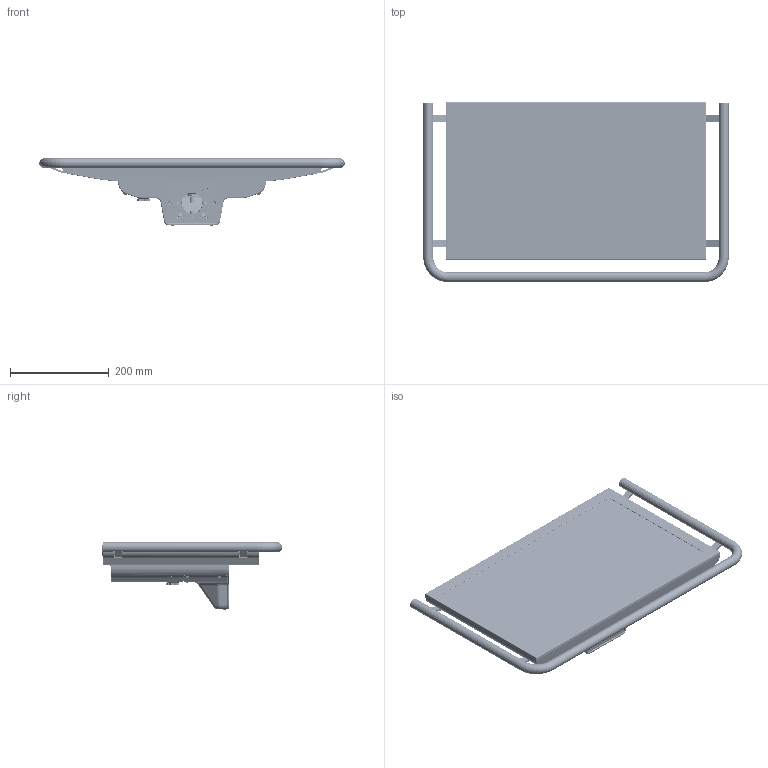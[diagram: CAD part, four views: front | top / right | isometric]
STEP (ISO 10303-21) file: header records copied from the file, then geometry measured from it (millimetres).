
FILE_DESCRIPTION (( 'STEP AP214' ), '1' );
FILE_NAME ('DIMA VK3500_MK200 BOTTOM ARM 215 RESISTIVO CON MANIGLIONE.STEP', '2022-06-22T11:53:24', ( '' ), ( '' ), 'SwSTEP 2.0', 'SolidWorks 2021', '' );
FILE_SCHEMA (( 'AUTOMOTIVE_DESIGN' ));
Length unit declared in the file: millimetre
Products named in the file (33): 66011054; 51736038; 58755015; 58755017; 48000059; 58336032; 58536019; 55455148; 14300048; 00_d18201905; 58536015; 69111021; 58700003; 58736012; 57836056_Default<A macchina>; 58755016; 60290016; 50342040; 65720029; 66811015; 50342037; 51736037; 65720000; 56202009; 56600739; 56102023; 69111030; 56236060; 58536020; 57903130_Default<A macchina>; DIMA VK3500_MK200 BOTTOM ARM 215 RESISTIVO CON MANIGLIONE; 56636991_Default<A macchina>; 65720013
Assembly tree (61 placements, depth 5):
  DIMA VK3500_MK200 BOTTOM ARM 215 RESISTIVO CON MANIGLIONE
    56600739
      56636991_Default<A macchina>
      50342037
    48000059
    14300048
    57836056_Default<A macchina>
    56236060
    56202009  x4
    66811015  x8
    69111021  x4
    00_d18201905
      58536020
        58536019
          58536015
      55455148
      57903130_Default<A macchina>
      51736038
        51736037
      65720029  x2
      66011054  x3
      69111030  x7
      58755015
      58755016  x4
      58755017  x5
      58700003
        58336032
        50342040
        58736012
        60290016
        56102023
        65720000
      65720013
Bounding box: 619.5 x 365.58 x 136.82 mm (x, y, z)
Volume: 2346278.8 mm3; surface area: 1147470.5 mm2
Topology: 68 solids, 82 shells, 5039 faces, 12430 edges, 7636 vertices
Faces by surface type: cylinder 1636, plane 1489, bspline 841, cone 772, torus 220, sphere 81
Entity records: 185042 total; most frequent: CARTESIAN_POINT 86322, ORIENTED_EDGE 20336, DIRECTION 18080, EDGE_CURVE 10170, AXIS2_PLACEMENT_3D 6878, VERTEX_POINT 6281, EDGE_LOOP 4467, VECTOR 4324
